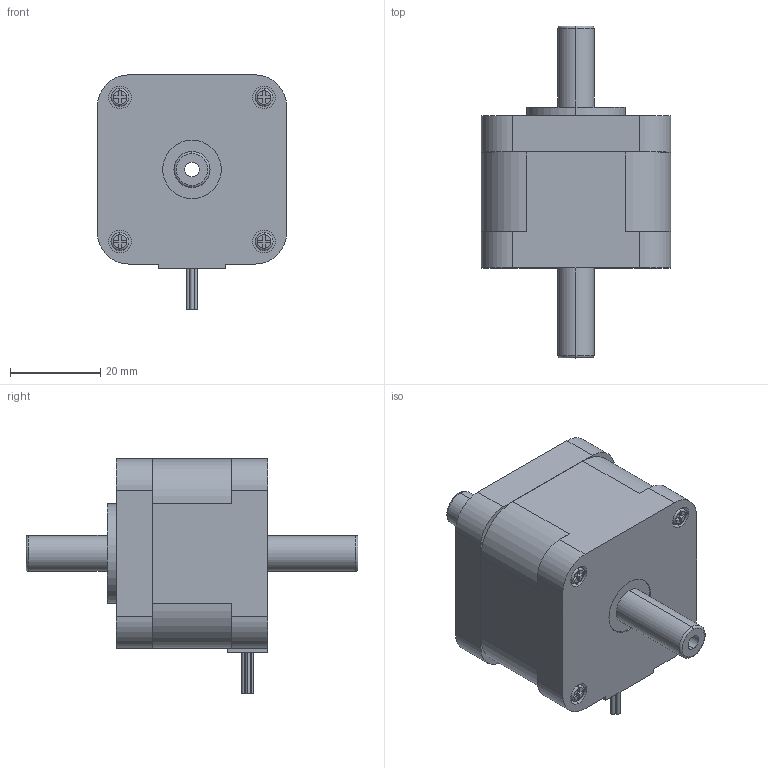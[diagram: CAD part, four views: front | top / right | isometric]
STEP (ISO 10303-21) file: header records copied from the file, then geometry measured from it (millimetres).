
FILE_DESCRIPTION (( 'STEP AP203' ), '1' );
FILE_NAME ('STCK-42D10-1434.STEP', '2019-10-12T06:49:16', ( 'China' ), ( 'Home' ), 'SwSTEP 2.0', 'SolidWorks 2016', '' );
FILE_SCHEMA (( 'CONFIG_CONTROL_DESIGN' ));
Length unit declared in the file: millimetre
Products named in the file (1): STCK-42D10-1434
Bounding box: 42 x 73.7 x 52 mm (x, y, z)
Volume: 59064.9 mm3; surface area: 14715.2 mm2
Topology: 2 solids, 2 shells, 174 faces, 424 edges, 272 vertices
Faces by surface type: cylinder 80, plane 74, torus 12, cone 8
Entity records: 5179 total; most frequent: DIRECTION 950, CARTESIAN_POINT 863, ORIENTED_EDGE 832, EDGE_CURVE 416, AXIS2_PLACEMENT_3D 359, VERTEX_POINT 272, VECTOR 232, LINE 232
